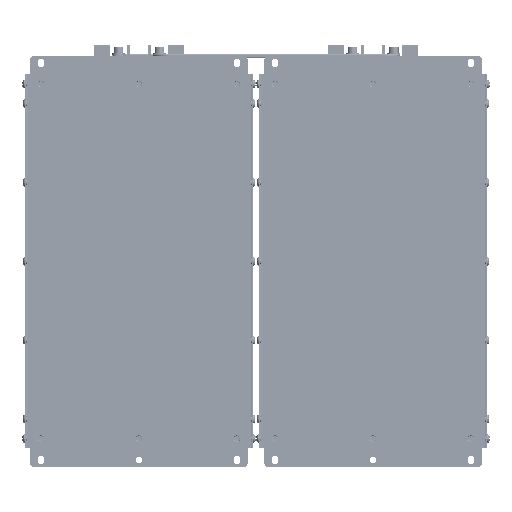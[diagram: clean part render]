
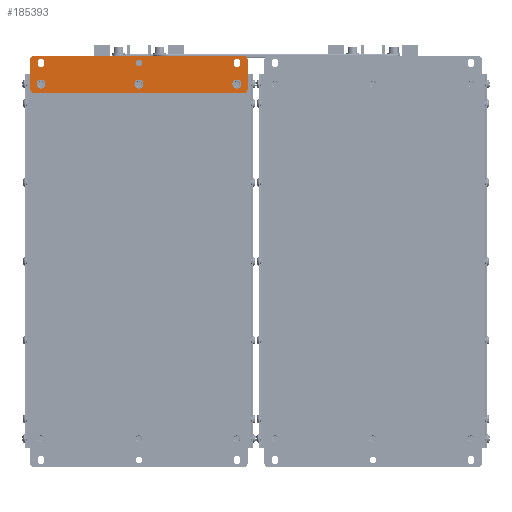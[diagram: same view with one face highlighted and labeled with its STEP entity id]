
A CAD part, front view. The second image highlights one B-rep face of the part: STEP entity #185393.
In plain terms, the highlighted planar face has unit normal (0, -1, 0).
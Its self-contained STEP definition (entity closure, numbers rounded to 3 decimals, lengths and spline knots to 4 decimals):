
#10626=FACE_BOUND('',#61498,.T.);
#10627=FACE_BOUND('',#61499,.T.);
#10628=FACE_BOUND('',#61500,.T.);
#10629=FACE_BOUND('',#61501,.T.);
#10630=FACE_BOUND('',#61502,.T.);
#10631=FACE_BOUND('',#61503,.T.);
#13383=PLANE('',#196109);
#22353=LINE('',#310531,#36811);
#22354=LINE('',#310535,#36812);
#22355=LINE('',#310539,#36813);
#22356=LINE('',#310543,#36814);
#22357=LINE('',#310549,#36815);
#22358=LINE('',#310553,#36816);
#22359=LINE('',#310559,#36817);
#22360=LINE('',#310562,#36818);
#36811=VECTOR('',#220719,0.3937);
#36812=VECTOR('',#220722,0.3937);
#36813=VECTOR('',#220725,0.3937);
#36814=VECTOR('',#220728,0.3937);
#36815=VECTOR('',#220733,0.3937);
#36816=VECTOR('',#220736,0.3937);
#36817=VECTOR('',#220741,0.3937);
#36818=VECTOR('',#220744,0.3937);
#51193=FACE_OUTER_BOUND('',#61497,.T.);
#61497=EDGE_LOOP('',(#141225,#141226,#141227,#141228,#141229,#141230,#141231,
#141232));
#61498=EDGE_LOOP('',(#141233));
#61499=EDGE_LOOP('',(#141234,#141235,#141236,#141237));
#61500=EDGE_LOOP('',(#141238,#141239,#141240,#141241));
#61501=EDGE_LOOP('',(#141242));
#61502=EDGE_LOOP('',(#141243));
#61503=EDGE_LOOP('',(#141244));
#69984=CIRCLE('',#196107,0.1811);
#69986=CIRCLE('',#196110,0.1575);
#69987=CIRCLE('',#196111,0.1575);
#69988=CIRCLE('',#196112,0.1575);
#69989=CIRCLE('',#196113,0.1575);
#69990=CIRCLE('',#196114,0.1811);
#69991=CIRCLE('',#196115,0.1299);
#69992=CIRCLE('',#196116,0.1299);
#69993=CIRCLE('',#196117,0.1299);
#69994=CIRCLE('',#196118,0.1299);
#69995=CIRCLE('',#196119,0.1299);
#69996=CIRCLE('',#196120,0.1811);
#81279=VERTEX_POINT('',#310523);
#81281=VERTEX_POINT('',#310529);
#81282=VERTEX_POINT('',#310530);
#81283=VERTEX_POINT('',#310532);
#81284=VERTEX_POINT('',#310534);
#81285=VERTEX_POINT('',#310536);
#81286=VERTEX_POINT('',#310538);
#81287=VERTEX_POINT('',#310540);
#81288=VERTEX_POINT('',#310542);
#81289=VERTEX_POINT('',#310545);
#81290=VERTEX_POINT('',#310547);
#81291=VERTEX_POINT('',#310548);
#81292=VERTEX_POINT('',#310550);
#81293=VERTEX_POINT('',#310552);
#81294=VERTEX_POINT('',#310555);
#81295=VERTEX_POINT('',#310556);
#81296=VERTEX_POINT('',#310558);
#81297=VERTEX_POINT('',#310560);
#81298=VERTEX_POINT('',#310563);
#81299=VERTEX_POINT('',#310565);
#102968=EDGE_CURVE('',#81279,#81279,#69984,.T.);
#102971=EDGE_CURVE('',#81281,#81282,#22353,.T.);
#102972=EDGE_CURVE('',#81283,#81281,#69986,.T.);
#102973=EDGE_CURVE('',#81284,#81283,#22354,.T.);
#102974=EDGE_CURVE('',#81285,#81284,#69987,.T.);
#102975=EDGE_CURVE('',#81286,#81285,#22355,.T.);
#102976=EDGE_CURVE('',#81287,#81286,#69988,.T.);
#102977=EDGE_CURVE('',#81288,#81287,#22356,.T.);
#102978=EDGE_CURVE('',#81282,#81288,#69989,.T.);
#102979=EDGE_CURVE('',#81289,#81289,#69990,.T.);
#102980=EDGE_CURVE('',#81290,#81291,#22357,.T.);
#102981=EDGE_CURVE('',#81291,#81292,#69991,.T.);
#102982=EDGE_CURVE('',#81292,#81293,#22358,.T.);
#102983=EDGE_CURVE('',#81293,#81290,#69992,.T.);
#102984=EDGE_CURVE('',#81294,#81295,#69993,.T.);
#102985=EDGE_CURVE('',#81295,#81296,#22359,.T.);
#102986=EDGE_CURVE('',#81296,#81297,#69994,.T.);
#102987=EDGE_CURVE('',#81297,#81294,#22360,.T.);
#102988=EDGE_CURVE('',#81298,#81298,#69995,.T.);
#102989=EDGE_CURVE('',#81299,#81299,#69996,.T.);
#141225=ORIENTED_EDGE('',*,*,#102971,.F.);
#141226=ORIENTED_EDGE('',*,*,#102972,.F.);
#141227=ORIENTED_EDGE('',*,*,#102973,.F.);
#141228=ORIENTED_EDGE('',*,*,#102974,.F.);
#141229=ORIENTED_EDGE('',*,*,#102975,.F.);
#141230=ORIENTED_EDGE('',*,*,#102976,.F.);
#141231=ORIENTED_EDGE('',*,*,#102977,.F.);
#141232=ORIENTED_EDGE('',*,*,#102978,.F.);
#141233=ORIENTED_EDGE('',*,*,#102979,.F.);
#141234=ORIENTED_EDGE('',*,*,#102980,.T.);
#141235=ORIENTED_EDGE('',*,*,#102981,.T.);
#141236=ORIENTED_EDGE('',*,*,#102982,.T.);
#141237=ORIENTED_EDGE('',*,*,#102983,.T.);
#141238=ORIENTED_EDGE('',*,*,#102984,.T.);
#141239=ORIENTED_EDGE('',*,*,#102985,.T.);
#141240=ORIENTED_EDGE('',*,*,#102986,.T.);
#141241=ORIENTED_EDGE('',*,*,#102987,.T.);
#141242=ORIENTED_EDGE('',*,*,#102988,.T.);
#141243=ORIENTED_EDGE('',*,*,#102989,.F.);
#141244=ORIENTED_EDGE('',*,*,#102968,.F.);
#185393=ADVANCED_FACE('',(#51193,#10626,#10627,#10628,#10629,#10630,#10631),
#13383,.F.);
#196107=AXIS2_PLACEMENT_3D('',#310524,#220712,#220713);
#196109=AXIS2_PLACEMENT_3D('',#310528,#220717,#220718);
#196110=AXIS2_PLACEMENT_3D('',#310533,#220720,#220721);
#196111=AXIS2_PLACEMENT_3D('',#310537,#220723,#220724);
#196112=AXIS2_PLACEMENT_3D('',#310541,#220726,#220727);
#196113=AXIS2_PLACEMENT_3D('',#310544,#220729,#220730);
#196114=AXIS2_PLACEMENT_3D('',#310546,#220731,#220732);
#196115=AXIS2_PLACEMENT_3D('',#310551,#220734,#220735);
#196116=AXIS2_PLACEMENT_3D('',#310554,#220737,#220738);
#196117=AXIS2_PLACEMENT_3D('',#310557,#220739,#220740);
#196118=AXIS2_PLACEMENT_3D('',#310561,#220742,#220743);
#196119=AXIS2_PLACEMENT_3D('',#310564,#220745,#220746);
#196120=AXIS2_PLACEMENT_3D('',#310566,#220747,#220748);
#220712=DIRECTION('center_axis',(0.,-1.,0.));
#220713=DIRECTION('ref_axis',(0.,0.,
1.));
#220717=DIRECTION('center_axis',(0.,1.,0.));
#220718=DIRECTION('ref_axis',(-1.,0.,0.));
#220719=DIRECTION('',(1.,0.,0.));
#220720=DIRECTION('center_axis',(0.,1.,0.));
#220721=DIRECTION('ref_axis',(-1.,0.,0.));
#220722=DIRECTION('',(0.,0.,1.));
#220723=DIRECTION('center_axis',(0.,1.,0.));
#220724=DIRECTION('ref_axis',(0.,0.,
-1.));
#220725=DIRECTION('',(-1.,0.,0.));
#220726=DIRECTION('center_axis',(0.,1.,0.));
#220727=DIRECTION('ref_axis',(1.,0.,0.));
#220728=DIRECTION('',(0.,0.,-1.));
#220729=DIRECTION('center_axis',(0.,1.,0.));
#220730=DIRECTION('ref_axis',(0.,0.,
1.));
#220731=DIRECTION('center_axis',(0.,-1.,0.));
#220732=DIRECTION('ref_axis',(0.,0.,
1.));
#220733=DIRECTION('',(0.,0.,-1.));
#220734=DIRECTION('center_axis',(0.,1.,0.));
#220735=DIRECTION('ref_axis',(-1.,0.,0.));
#220736=DIRECTION('',(0.,0.,1.));
#220737=DIRECTION('center_axis',(0.,1.,0.));
#220738=DIRECTION('ref_axis',(1.,0.,0.));
#220739=DIRECTION('center_axis',(0.,1.,0.));
#220740=DIRECTION('ref_axis',(1.,0.,0.));
#220741=DIRECTION('',(0.,0.,-1.));
#220742=DIRECTION('center_axis',(0.,1.,0.));
#220743=DIRECTION('ref_axis',(-1.,0.,0.));
#220744=DIRECTION('',(0.,0.,1.));
#220745=DIRECTION('center_axis',(0.,1.,0.));
#220746=DIRECTION('ref_axis',(0.,0.,
1.));
#220747=DIRECTION('center_axis',(0.,-1.,0.));
#220748=DIRECTION('ref_axis',(0.,0.,
1.));
#310523=CARTESIAN_POINT('',(3.2045,-2.6335,6.9449));
#310524=CARTESIAN_POINT('Origin',(3.2045,-2.6335,7.126));
#310528=CARTESIAN_POINT('Origin',(-0.7325,-2.6335,
7.5197));
#310529=CARTESIAN_POINT('',(-4.9451,-2.6335,8.2677));
#310530=CARTESIAN_POINT('',(3.4801,-2.6335,8.2677));
#310531=CARTESIAN_POINT('',(-4.9451,-2.6335,8.2677));
#310532=CARTESIAN_POINT('',(-5.1026,-2.6335,8.1102));
#310533=CARTESIAN_POINT('Origin',(-4.9451,-2.6335,8.1102));
#310534=CARTESIAN_POINT('',(-5.1026,-2.6335,6.9291));
#310535=CARTESIAN_POINT('',(-5.1026,-2.6335,6.9291));
#310536=CARTESIAN_POINT('',(-4.9451,-2.6335,6.7717));
#310537=CARTESIAN_POINT('Origin',(-4.9451,-2.6335,6.9291));
#310538=CARTESIAN_POINT('',(3.4801,-2.6335,6.7717));
#310539=CARTESIAN_POINT('',(3.4801,-2.6335,6.7717));
#310540=CARTESIAN_POINT('',(3.6375,-2.6335,6.9291));
#310541=CARTESIAN_POINT('Origin',(3.4801,-2.6335,6.9291));
#310542=CARTESIAN_POINT('',(3.6375,-2.6335,8.1102));
#310543=CARTESIAN_POINT('',(3.6375,-2.6335,8.1102));
#310544=CARTESIAN_POINT('Origin',(3.4801,-2.6335,8.1102));
#310545=CARTESIAN_POINT('',(-0.7325,-2.6335,6.9449));
#310546=CARTESIAN_POINT('Origin',(-0.7325,-2.6335,
7.126));
#310547=CARTESIAN_POINT('',(3.3344,-2.6335,8.0118));
#310548=CARTESIAN_POINT('',(3.3344,-2.6335,7.9331));
#310549=CARTESIAN_POINT('',(3.3344,-2.6335,7.7657));
#310550=CARTESIAN_POINT('',(3.0745,-2.6335,7.9331));
#310551=CARTESIAN_POINT('Origin',(3.2045,-2.6335,7.9331));
#310552=CARTESIAN_POINT('',(3.0745,-2.6335,8.0118));
#310553=CARTESIAN_POINT('',(3.0745,-2.6335,7.7264));
#310554=CARTESIAN_POINT('Origin',(3.2045,-2.6335,8.0118));
#310555=CARTESIAN_POINT('',(-4.7995,-2.6335,8.0118));
#310556=CARTESIAN_POINT('',(-4.5396,-2.6335,8.0118));
#310557=CARTESIAN_POINT('Origin',(-4.6696,-2.6335,8.0118));
#310558=CARTESIAN_POINT('',(-4.5396,-2.6335,7.9331));
#310559=CARTESIAN_POINT('',(-4.5396,-2.6335,7.7657));
#310560=CARTESIAN_POINT('',(-4.7995,-2.6335,7.9331));
#310561=CARTESIAN_POINT('Origin',(-4.6696,-2.6335,7.9331));
#310562=CARTESIAN_POINT('',(-4.7995,-2.6335,7.7264));
#310563=CARTESIAN_POINT('',(-0.7325,-2.6335,7.8425));
#310564=CARTESIAN_POINT('Origin',(-0.7325,-2.6335,
7.9724));
#310565=CARTESIAN_POINT('',(-4.6696,-2.6335,6.9449));
#310566=CARTESIAN_POINT('Origin',(-4.6696,-2.6335,7.126));
